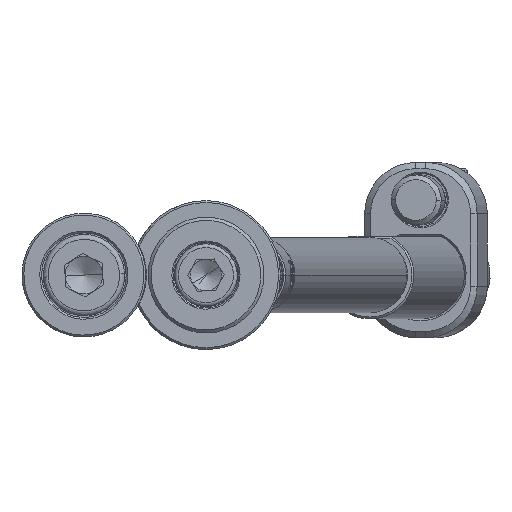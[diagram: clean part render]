
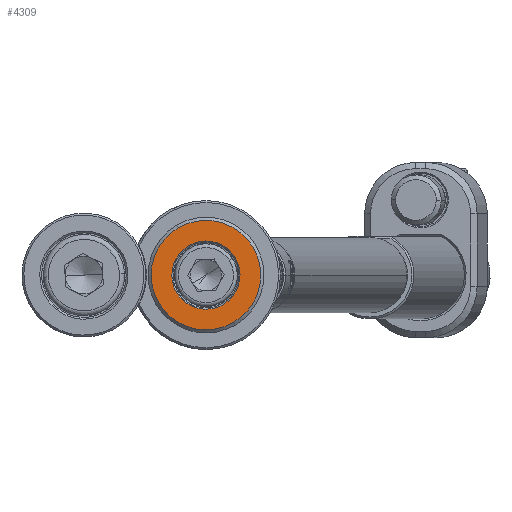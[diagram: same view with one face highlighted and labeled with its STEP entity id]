
A CAD part, front view. The second image highlights one B-rep face of the part: STEP entity #4309.
In plain terms, the highlighted planar face has unit normal (0, -1, 0).
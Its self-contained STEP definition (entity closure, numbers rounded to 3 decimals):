
#979 = DIRECTION ( 'NONE',  ( 0., -1., 0. ) ) ;
#1526 = VERTEX_POINT ( 'NONE', #3088 ) ;
#1604 = PLANE ( 'NONE',  #7314 ) ;
#2128 = DIRECTION ( 'NONE',  ( -0.505, 0., 0.863 ) ) ;
#2555 = DIRECTION ( 'NONE',  ( -0.505, 0., 0.863 ) ) ;
#2611 = CARTESIAN_POINT ( 'NONE',  ( -2.753, -4., 4.704 ) ) ;
#2989 = DIRECTION ( 'NONE',  ( -0.505, 0., 0.863 ) ) ;
#3088 = CARTESIAN_POINT ( 'NONE',  ( -4.42, -4., 7.552 ) ) ;
#4111 = DIRECTION ( 'NONE',  ( 0., 1., 0. ) ) ;
#4309 = ADVANCED_FACE ( 'NONE', ( #7912, #12381 ), #1604, .F. ) ;
#4323 = CARTESIAN_POINT ( 'NONE',  ( 0., -4., 0. ) ) ;
#4425 = EDGE_CURVE ( 'NONE', #1526, #4604, #13117, .T. ) ;
#4551 = CIRCLE ( 'NONE', #5728, 8.75 ) ;
#4604 = VERTEX_POINT ( 'NONE', #11090 ) ;
#4999 = CARTESIAN_POINT ( 'NONE',  ( -4.531, -4., -2.652 ) ) ;
#5166 = ORIENTED_EDGE ( 'NONE', *, *, #4425, .T. ) ;
#5728 = AXIS2_PLACEMENT_3D ( 'NONE', #4323, #7680, #8840 ) ;
#5934 = EDGE_CURVE ( 'NONE', #13965, #11661, #6518, .T. ) ;
#6012 = DIRECTION ( 'NONE',  ( 0., 1., 0. ) ) ;
#6230 = EDGE_CURVE ( 'NONE', #4604, #1526, #4551, .T. ) ;
#6518 = CIRCLE ( 'NONE', #6978, 5.45 ) ;
#6829 = AXIS2_PLACEMENT_3D ( 'NONE', #14311, #979, #2128 ) ;
#6863 = CARTESIAN_POINT ( 'NONE',  ( 2.753, -4., -4.704 ) ) ;
#6978 = AXIS2_PLACEMENT_3D ( 'NONE', #12520, #6012, #2555 ) ;
#7058 = EDGE_LOOP ( 'NONE', ( #5166, #9401 ) ) ;
#7118 = EDGE_CURVE ( 'NONE', #11661, #13965, #10691, .T. ) ;
#7314 = AXIS2_PLACEMENT_3D ( 'NONE', #4999, #9451, #10501 ) ;
#7680 = DIRECTION ( 'NONE',  ( 0., -1., 0. ) ) ;
#7912 = FACE_BOUND ( 'NONE', #9226, .T. ) ;
#8036 = ORIENTED_EDGE ( 'NONE', *, *, #7118, .T. ) ;
#8080 = AXIS2_PLACEMENT_3D ( 'NONE', #10855, #4111, #2989 ) ;
#8840 = DIRECTION ( 'NONE',  ( -0.505, 0., 0.863 ) ) ;
#9226 = EDGE_LOOP ( 'NONE', ( #8036, #13543 ) ) ;
#9401 = ORIENTED_EDGE ( 'NONE', *, *, #6230, .T. ) ;
#9451 = DIRECTION ( 'NONE',  ( 0., 1., 0. ) ) ;
#10501 = DIRECTION ( 'NONE',  ( -0.505, 0., 0.863 ) ) ;
#10691 = CIRCLE ( 'NONE', #8080, 5.45 ) ;
#10855 = CARTESIAN_POINT ( 'NONE',  ( 0., -4., 0. ) ) ;
#11090 = CARTESIAN_POINT ( 'NONE',  ( 4.42, -4., -7.552 ) ) ;
#11661 = VERTEX_POINT ( 'NONE', #6863 ) ;
#12381 = FACE_OUTER_BOUND ( 'NONE', #7058, .T. ) ;
#12520 = CARTESIAN_POINT ( 'NONE',  ( 0., -4., 0. ) ) ;
#13117 = CIRCLE ( 'NONE', #6829, 8.75 ) ;
#13543 = ORIENTED_EDGE ( 'NONE', *, *, #5934, .T. ) ;
#13965 = VERTEX_POINT ( 'NONE', #2611 ) ;
#14311 = CARTESIAN_POINT ( 'NONE',  ( 0., -4., 0. ) ) ;
